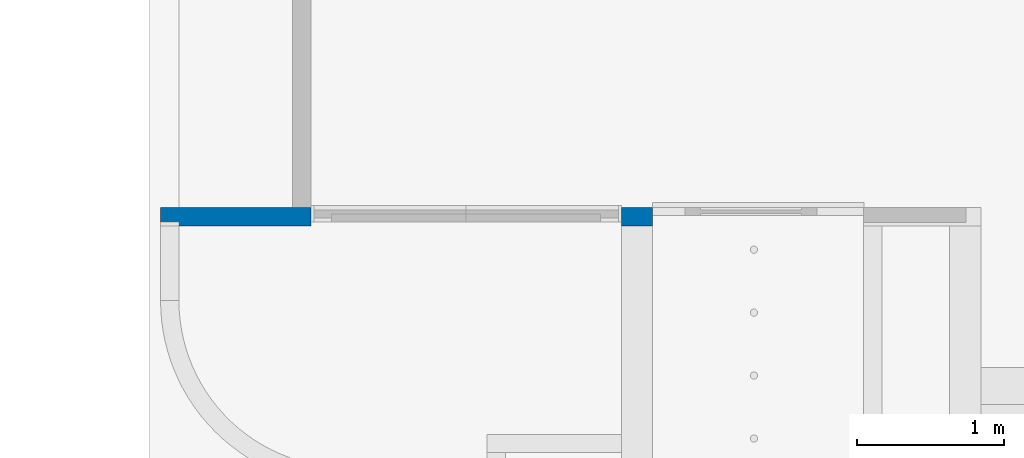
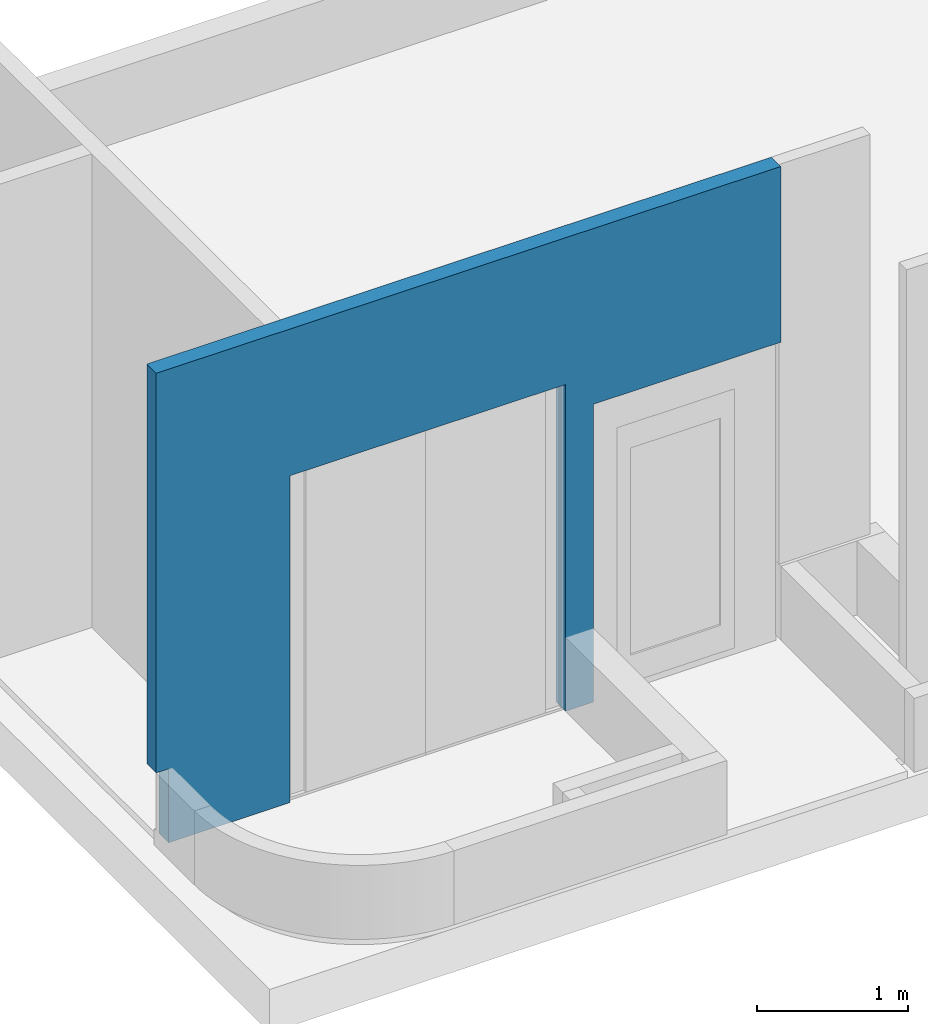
# One storey, part 3 of 6: 1 wall.
"""IFC2X3 building model written with IfcOpenShell, lengths in millimetres."""

from ifc_helpers import new_model, entity, si_unit, converted_unit, derived_unit, direction, frame, origin, place, context, subcontext, project, spatial, faceted_brep, material, layer, layer_set, type_object, element, save


model = new_model("IFC2X3")

# Units and contexts
model_context = context("Model", 3, precision=0.01, world=origin(), true_north=direction((6.123031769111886e-17, 1.0)))
body_context = subcontext(model_context, "Body", "Model", "MODEL_VIEW")
ifc_project = project(units=[si_unit("LENGTHUNIT", "METRE", prefix="MILLI"), si_unit("AREAUNIT", "SQUARE_METRE"), si_unit("VOLUMEUNIT", "CUBIC_METRE"), converted_unit("PLANEANGLEUNIT", "DEGREE", entity("IfcRatioMeasure", 0.017453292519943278), si_unit("PLANEANGLEUNIT", "RADIAN"), dimensions=[0, 0, 0, 0, 0, 0, 0]), si_unit("MASSUNIT", "GRAM", prefix="KILO"), derived_unit("MASSDENSITYUNIT", [(si_unit("MASSUNIT", "GRAM", prefix="KILO"), 1), (si_unit("LENGTHUNIT", "METRE"), -3)]), derived_unit("IONCONCENTRATIONUNIT", [(si_unit("MASSUNIT", "GRAM", prefix="KILO"), 1), (si_unit("LENGTHUNIT", "METRE"), -3)]), derived_unit("MOMENTOFINERTIAUNIT", [(si_unit("LENGTHUNIT", "METRE"), 4)]), si_unit("TIMEUNIT", "SECOND"), si_unit("FREQUENCYUNIT", "HERTZ"), si_unit("THERMODYNAMICTEMPERATUREUNIT", "DEGREE_CELSIUS"), derived_unit("THERMALTRANSMITTANCEUNIT", [(si_unit("MASSUNIT", "GRAM", prefix="KILO"), 1), (si_unit("THERMODYNAMICTEMPERATUREUNIT", "KELVIN"), -1), (si_unit("TIMEUNIT", "SECOND"), -3)]), derived_unit("THERMALCONDUCTANCEUNIT", [(si_unit("MASSUNIT", "GRAM", prefix="KILO"), 1), (si_unit("THERMODYNAMICTEMPERATUREUNIT", "KELVIN"), -1), (si_unit("TIMEUNIT", "SECOND"), -3), (si_unit("LENGTHUNIT", "METRE"), 1)]), derived_unit("VOLUMETRICFLOWRATEUNIT", [(si_unit("LENGTHUNIT", "METRE"), 3), (si_unit("TIMEUNIT", "SECOND"), -1)]), derived_unit("MASSFLOWRATEUNIT", [(si_unit("MASSUNIT", "GRAM", prefix="KILO"), 1), (si_unit("TIMEUNIT", "SECOND"), -1)]), derived_unit("ROTATIONALFREQUENCYUNIT", [(si_unit("TIMEUNIT", "SECOND"), -1)]), si_unit("ELECTRICCURRENTUNIT", "AMPERE"), si_unit("ELECTRICVOLTAGEUNIT", "VOLT"), si_unit("POWERUNIT", "WATT"), si_unit("FORCEUNIT", "NEWTON", prefix="KILO"), si_unit("ILLUMINANCEUNIT", "LUX"), si_unit("LUMINOUSFLUXUNIT", "LUMEN"), si_unit("LUMINOUSINTENSITYUNIT", "CANDELA"), derived_unit("USERDEFINED", [(si_unit("MASSUNIT", "GRAM", prefix="KILO"), -1), (si_unit("LENGTHUNIT", "METRE"), -2), (si_unit("TIMEUNIT", "SECOND"), 3), (si_unit("LUMINOUSFLUXUNIT", "LUMEN"), 1)]), derived_unit("USERDEFINED", [(si_unit("MASSUNIT", "GRAM", prefix="KILO"), 1), (si_unit("TIMEUNIT", "SECOND"), -3), (si_unit("LENGTHUNIT", "METRE"), 3), (si_unit("ELECTRICCURRENTUNIT", "AMPERE"), -2)]), derived_unit("SOUNDPOWERUNIT", [(si_unit("MASSUNIT", "GRAM", prefix="KILO"), 1), (si_unit("TIMEUNIT", "SECOND"), -3), (si_unit("LENGTHUNIT", "METRE"), 2)]), derived_unit("SOUNDPRESSUREUNIT", [(si_unit("MASSUNIT", "GRAM", prefix="KILO"), 1), (si_unit("LENGTHUNIT", "METRE"), -1), (si_unit("TIMEUNIT", "SECOND"), -2)]), derived_unit("LINEARVELOCITYUNIT", [(si_unit("LENGTHUNIT", "METRE"), 1), (si_unit("TIMEUNIT", "SECOND"), -1)]), si_unit("PRESSUREUNIT", "PASCAL"), derived_unit("USERDEFINED", [(si_unit("MASSUNIT", "GRAM", prefix="KILO"), 1), (si_unit("LENGTHUNIT", "METRE"), -2), (si_unit("TIMEUNIT", "SECOND"), -2)]), derived_unit("LINEARFORCEUNIT", [(si_unit("MASSUNIT", "GRAM", prefix="KILO"), 1), (si_unit("TIMEUNIT", "SECOND"), -2)]), derived_unit("PLANARFORCEUNIT", [(si_unit("MASSUNIT", "GRAM", prefix="KILO"), 1), (si_unit("LENGTHUNIT", "METRE"), -1), (si_unit("TIMEUNIT", "SECOND"), -2)]), derived_unit("SPECIFICHEATCAPACITYUNIT", [(si_unit("THERMODYNAMICTEMPERATUREUNIT", "KELVIN"), -1), (si_unit("LENGTHUNIT", "METRE"), 2), (si_unit("TIMEUNIT", "SECOND"), -2)]), derived_unit("HEATINGVALUEUNIT", [(si_unit("LENGTHUNIT", "METRE"), 2), (si_unit("TIMEUNIT", "SECOND"), -2)]), derived_unit("VAPORPERMEABILITYUNIT", [(si_unit("LENGTHUNIT", "METRE"), -1), (si_unit("TIMEUNIT", "SECOND"), 1)]), derived_unit("DYNAMICVISCOSITYUNIT", [(si_unit("MASSUNIT", "GRAM", prefix="KILO"), 1), (si_unit("TIMEUNIT", "SECOND"), -1), (si_unit("LENGTHUNIT", "METRE"), -1)]), derived_unit("THERMALEXPANSIONCOEFFICIENTUNIT", [(si_unit("THERMODYNAMICTEMPERATUREUNIT", "KELVIN"), -1)]), derived_unit("MODULUSOFELASTICITYUNIT", [(si_unit("MASSUNIT", "GRAM", prefix="KILO"), 1), (si_unit("LENGTHUNIT", "METRE"), -1), (si_unit("TIMEUNIT", "SECOND"), -2)]), derived_unit("ISOTHERMALMOISTURECAPACITYUNIT", [(si_unit("LENGTHUNIT", "METRE"), 3), (si_unit("MASSUNIT", "GRAM", prefix="KILO"), -1)]), derived_unit("MOISTUREDIFFUSIVITYUNIT", [(si_unit("TIMEUNIT", "SECOND"), -1), (si_unit("LENGTHUNIT", "METRE"), 2)])], contexts=[model_context])

# Site, building, storey
site_placement = place(None, frame((0.0, 300.0, 0.0)))
site = spatial("IfcSite", under=ifc_project, at=site_placement, Name="<Kadastrale nummers>", CompositionType="ELEMENT")
building_placement = place(site_placement, origin())
building = spatial("IfcBuilding", under=site, at=building_placement, CompositionType="ELEMENT")
storey_placement = place(building_placement, frame((0.0, 0.0, -600.0)))
storey = spatial("IfcBuildingStorey", under=building, at=storey_placement, Name="-1 Speelvloer", CompositionType="ELEMENT", Elevation=-599.9999999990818)

# Wall
ifc_material_1 = material(Name="ISR_Gips")
ifc_layer_1 = layer(ifc_material_1, 1.0)
ifc_material_2 = material(Name="ISR_Binnenwand")
ifc_layer_2 = layer(ifc_material_2, 123.0)
ifc_layer_3 = layer(ifc_material_1, 1.0)
ifc_layer_set = layer_set([ifc_layer_1, ifc_layer_2, ifc_layer_3], Name="Basic Wall:22_DAT_binnenwand_125")
wall_type = type_object("IfcWallType", Name="Basic Wall:22_DAT_binnenwand_125", PredefinedType="STANDARD", material=ifc_layer_set)
wall_placement = place(storey_placement, frame((41250.0, 42482.49999999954, 0.0), z_axis=(0.0, 0.0, 1.0), x_axis=(-1.0, 0.0, 0.0)))
element("IfcWall", 1, at=wall_placement, inside=storey, type_object=wall_type, Name="Basic Wall:22_DAT_binnenwand_125", ObjectType="Basic Wall:22_DAT_binnenwand_125", context=body_context, shape_type="Brep", body=[
    faceted_brep([(4789.960062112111, -62.50000000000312, 3840.0000290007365), (3889.9600621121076, -62.50000000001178, 3840.0000290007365), (3764.9600621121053, -62.50000000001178, 3840.0000290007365), (0.0, -62.50000000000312, 3840.0000290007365), (0.0, -62.50000000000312, 2415.0), (1436.0002140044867, -62.50000000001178, 2415.0), (1436.0002140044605, -62.50000000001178, 0.0), (1650.0002140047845, -62.50000000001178, 0.0), (1650.0002140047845, -62.50000000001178, 2650.0), (3764.9600621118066, -62.50000000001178, 2650.0), (3764.9600621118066, -62.50000000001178, 0.0), (3889.9600621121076, -62.50000000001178, 0.0), (4694.960062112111, -62.50000000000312, 0.0), (4694.960062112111, -62.50000000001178, 600.0), (4789.960062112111, -62.50000000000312, 600.0), (0.0, 62.49999999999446, 3840.0000290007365), (4664.960062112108, 62.49999999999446, 3840.0000290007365), (4789.96006211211, 62.49999999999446, 3840.0000290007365), (4789.96006211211, 62.49999999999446, 600.0), (4694.96006211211, 62.49999999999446, 600.0), (4694.96006211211, 62.49999999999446, 0.0), (3764.960062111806, 62.49999999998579, 0.0), (3764.960062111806, 62.49999999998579, 2650.0), (1650.0002140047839, 62.49999999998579, 2650.0), (1650.0002140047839, 62.49999999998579, 0.0), (1436.00021400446, 62.49999999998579, 0.0), (1436.000214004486, 62.49999999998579, 2415.0), (0.0, 62.49999999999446, 2415.0)], [[[0, 1, 2, 3, 4, 5, 6, 7, 8, 9, 10, 11, 12, 13, 14]], [[15, 16, 17, 18, 19, 20, 21, 22, 23, 24, 25, 26, 27]], [[13, 12, 20, 19]], [[0, 14, 18, 17]], [[6, 25, 24, 7]], [[3, 2, 1, 0, 17, 16, 15]], [[4, 3, 15, 27]], [[14, 13, 19, 18]], [[5, 4, 27, 26]], [[6, 5, 26, 25]], [[9, 22, 21, 10]], [[22, 9, 8, 23]], [[23, 8, 7, 24]], [[20, 12, 11, 10, 21]]]),
])

save(model, "model.ifc")
